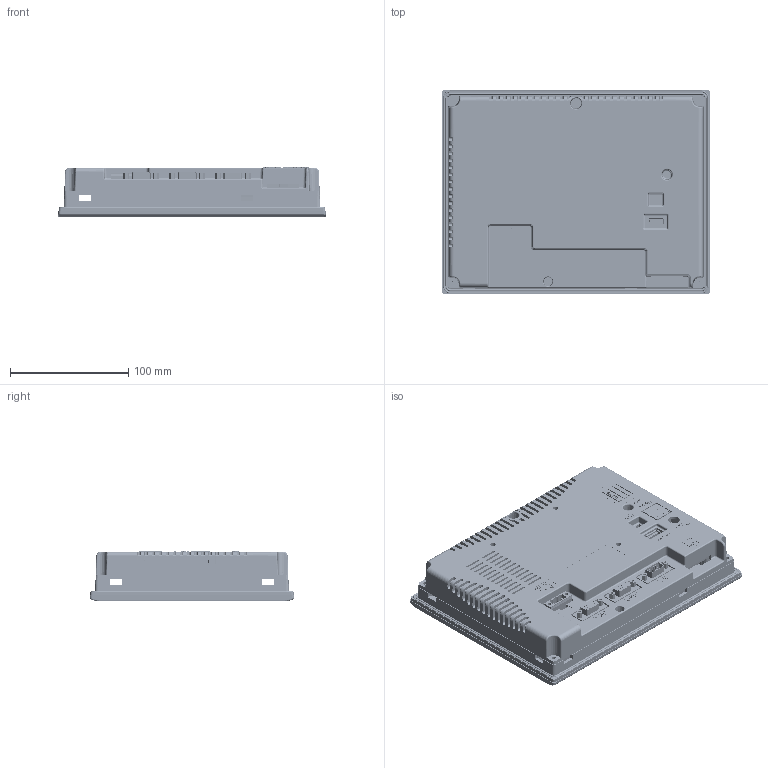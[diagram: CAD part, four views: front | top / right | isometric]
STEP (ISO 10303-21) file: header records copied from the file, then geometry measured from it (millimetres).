
FILE_DESCRIPTION((''),'2;1');
FILE_NAME('Z:\黃世程\4_可提供給客戶3D檔案\1_3D\EC208_3D.stp','2014-03-18T13:21:00',('11254'),(''),'Autodesk Inventor 2008','Autodesk Inventor 2008','');
FILE_SCHEMA(('AUTOMOTIVE_DESIGN { 1 0 10303 214 1 1 1 1 }'));
Length unit declared in the file: millimetre
Products named in the file (1): EC208_3D
Bounding box: 226 x 173 x 42.9 mm (x, y, z)
Volume: 433293.2 mm3; surface area: 314250.4 mm2
Topology: 2 solids, 2 shells, 17614 faces, 51476 edges, 34218 vertices
Faces by surface type: plane 16170, cylinder 917, bspline 474, cone 32, torus 15, sphere 6
Full cylindrical faces by diameter (mm): 0.36 x5, 0.4 x7, 0.5 x16, 0.508 x2, 0.55 x4, 0.772 x1, 0.8 x5, 0.9 x8, 1 x81, 2 x9, 2.459 x1, 3 x8, 3.1 x6, 3.2 x6, 3.5 x10, 4 x10, 4.5 x1, 5 x9, 6 x1, 9 x3, 9.8 x1, 12 x1, 13 x2
Entity records: 579260 total; most frequent: CARTESIAN_POINT 113658, ORIENTED_EDGE 102462, DIRECTION 86800, EDGE_CURVE 51231, VECTOR 48154, LINE 48154, VERTEX_POINT 34197, AXIS2_PLACEMENT_3D 19323
